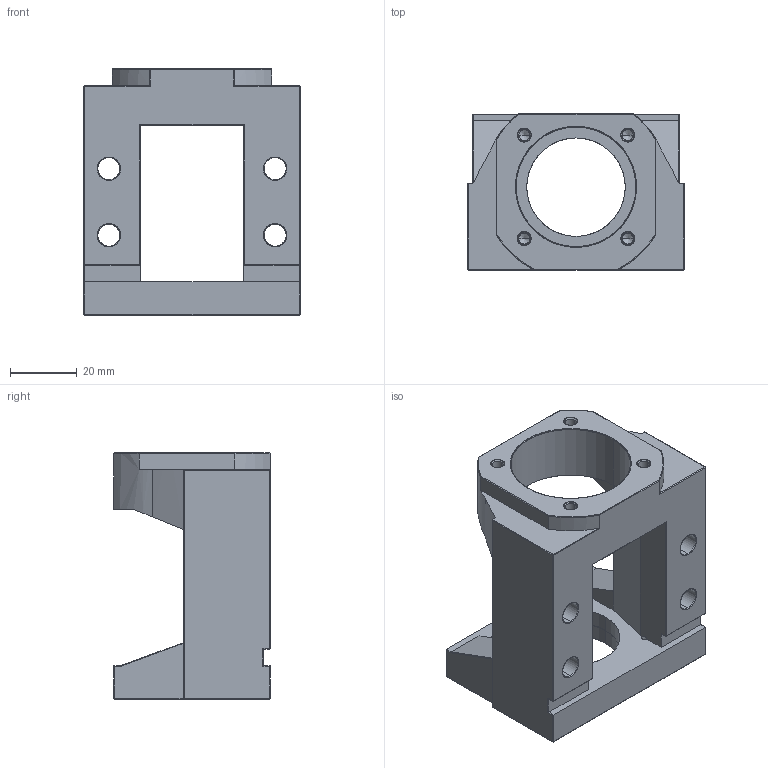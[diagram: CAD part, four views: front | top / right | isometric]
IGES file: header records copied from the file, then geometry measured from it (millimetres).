
Start section: SolidWorks IGES file using analytic representation for surfaces
Global section: file name: C:\Users\117\Desktop\1061208網站3D圖檔問題處理\傳動座\外露型\MBA\MBA12-A.IGS,15HSolidWorks; native system: 2017; preprocessor: SolidWorks 2017; author: 117; date: 171228.135801; units: millimetre
Bounding box: 65 x 47 x 74 mm (x, y, z)
Surface area: 25430.9 mm2 (no closed solid volume)
Topology: 0 solids, 0 shells, 204 faces, 2350 edges, 2326 vertices
Faces by surface type: revolution 129, bspline 75
